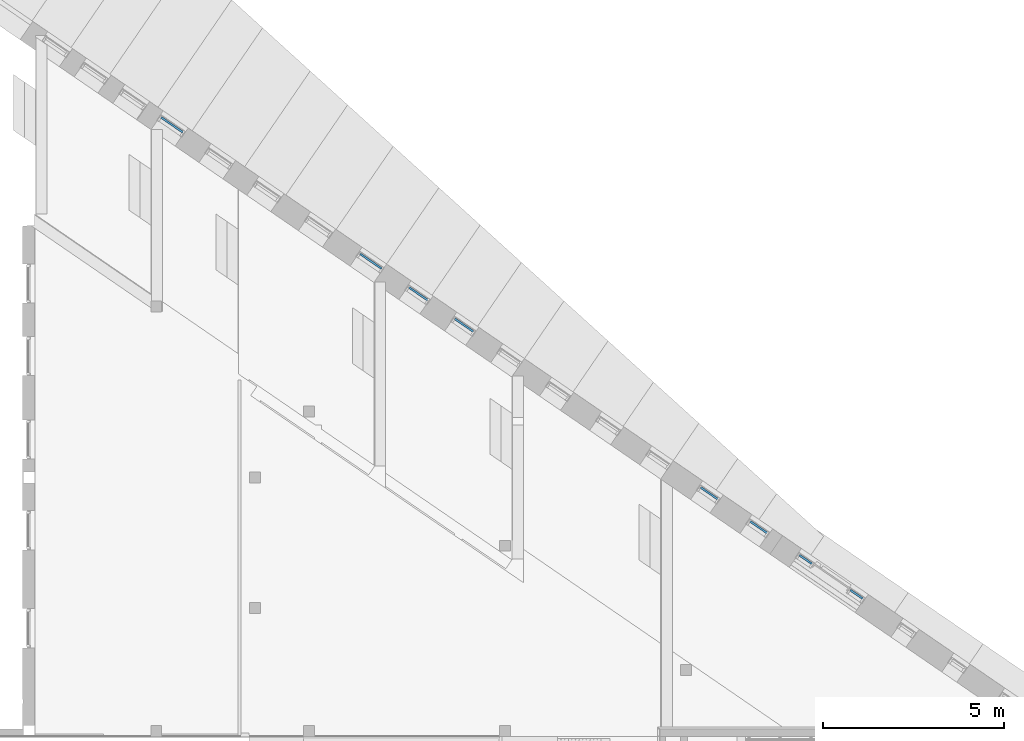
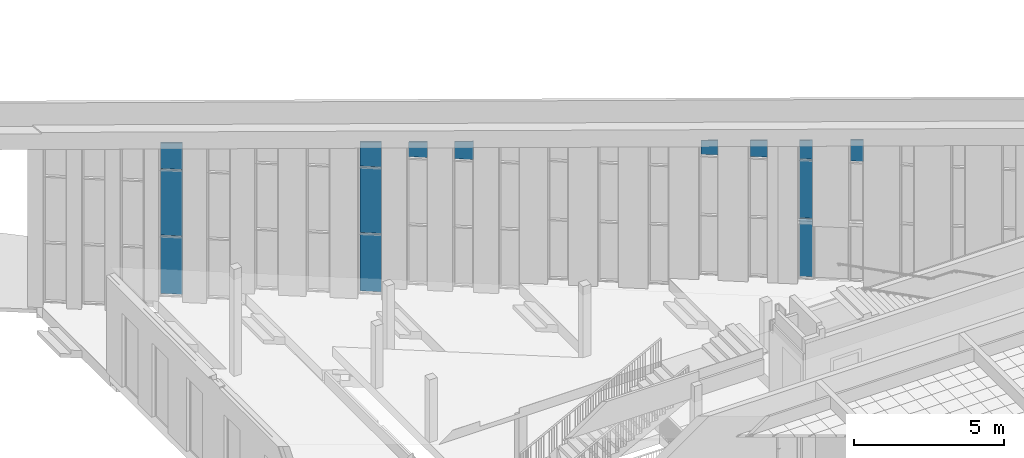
# One storey, part 36 of 79: 14 plates, 8 elements without a shape of their own.
"""IFC2X3 building model written with IfcOpenShell, lengths in millimetres."""

from ifc_helpers import new_model, entity, si_unit, converted_unit, derived_unit, money_unit, direction, frame, origin_with_axes, place, context, subcontext, project, spatial, faceted_brep, material, type_object, element, aggregate, save


model = new_model("IFC2X3")

# Units and contexts
model_context = context("Model", 3, precision=0.01, world=origin_with_axes(), true_north=direction((0.0, 1.0)))
body_context = subcontext(model_context, "Body", "Model", "MODEL_VIEW")
ifc_project = project(units=[si_unit("LENGTHUNIT", "METRE", prefix="MILLI"), si_unit("AREAUNIT", "SQUARE_METRE"), si_unit("VOLUMEUNIT", "CUBIC_METRE"), converted_unit("PLANEANGLEUNIT", "DEGREE", entity("IfcPlaneAngleMeasure", 0.0174532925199), si_unit("PLANEANGLEUNIT", "RADIAN"), dimensions=[0, 0, 0, 0, 0, 0, 0]), si_unit("SOLIDANGLEUNIT", "STERADIAN"), money_unit("EUR"), converted_unit("TIMEUNIT", "Year", entity("IfcTimeMeasure", 31556926.0), si_unit("TIMEUNIT", "SECOND"), dimensions=[0, 0, 1, 0, 0, 0, 0]), si_unit("MASSUNIT", "GRAM", prefix="KILO"), si_unit("THERMODYNAMICTEMPERATUREUNIT", "DEGREE_CELSIUS"), si_unit("LUMINOUSINTENSITYUNIT", "LUMEN"), si_unit("ENERGYUNIT", "JOULE", prefix="MEGA"), derived_unit("THERMALCONDUCTANCEUNIT", [(si_unit("POWERUNIT", "WATT"), 1), (si_unit("LENGTHUNIT", "METRE"), -1), (si_unit("THERMODYNAMICTEMPERATUREUNIT", "KELVIN"), -1)]), derived_unit("SPECIFICHEATCAPACITYUNIT", [(si_unit("ENERGYUNIT", "JOULE"), 1), (si_unit("MASSUNIT", "GRAM", prefix="KILO"), -1), (si_unit("THERMODYNAMICTEMPERATUREUNIT", "KELVIN"), -1)]), derived_unit("MASSDENSITYUNIT", [(si_unit("MASSUNIT", "GRAM", prefix="KILO"), 1), (si_unit("VOLUMEUNIT", "CUBIC_METRE"), -1)])], contexts=[model_context])

# Site, building, storey
site_placement = place(None, origin_with_axes())
site = spatial("IfcSite", under=ifc_project, at=site_placement, Name="L.Koidula tn 11b", CompositionType="ELEMENT")
building_placement = place(site_placement, origin_with_axes())
building = spatial("IfcBuilding", under=site, at=building_placement, Name="Rakvere Riigigümnaasium", CompositionType="ELEMENT")
storey_placement = place(building_placement, frame((0.0, 0.0, 3720.0), z_axis=(0.0, 0.0, 1.0), x_axis=(1.0, 0.0, 0.0)))
storey = spatial("IfcBuildingStorey", under=building, at=storey_placement, Name="2.korrus +3,72", CompositionType="ELEMENT", Elevation=3720.0)

# Curtain wall, plate
curtain_wall_type = type_object("IfcCurtainWallType", Name="Curtain Wall Type", PredefinedType="NOTDEFINED")
curtain_wall_1_placement = place(storey_placement, frame((61972.2494244, 33972.9766299, -1395.00007094), z_axis=(0.0, 0.0, 1.0), x_axis=(1.0, 0.0, 0.0)))
curtain_wall_1 = element("IfcCurtainWall", 1, at=curtain_wall_1_placement, inside=storey, type_object=curtain_wall_type, Name="KLF-06-18")
ifc_material = material(Name="Klaaspakett 3x")
plate_type_1 = type_object("IfcPlateType", Name="Distinct Panel 726 x 2676 x 54", PredefinedType="CURTAIN_PANEL")
plate_1_placement = place(curtain_wall_1_placement, frame((0.0259363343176, -0.0177891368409, 3750.00015279), z_axis=(0.0, 0.0, 1.0), x_axis=(-0.824666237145, 0.565619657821, 0.0)))
plate_1 = element("IfcPlate", 2, at=plate_1_placement, type_object=plate_type_1, material=ifc_material, Name="KLF-06-18-Klaasid", ObjectType="CURTAIN_PANEL", context=body_context, shape_type="Brep", body=[
    faceted_brep([(-362.960890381, 27.0, 1338.00001341), (-362.960890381, -27.0, 1338.00001341), (363.008103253, -27.0, 1338.00001341), (363.008103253, 27.0, 1338.00001341), (-362.960769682, 27.0, -1338.00001341), (-362.960769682, -27.0, -1338.00001341), (362.913555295, -27.0, -1338.00001341), (362.913555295, 27.0, -1338.00001341)], [[[0, 1, 2, 3]], [[4, 5, 1, 0]], [[1, 5, 6, 2]], [[3, 2, 6, 7]], [[0, 3, 7, 4]], [[7, 6, 5, 4]]]),
])

curtain_wall_2_placement = place(storey_placement, frame((67456.273164, 30211.6096842, -929.999974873), z_axis=(0.0, 0.0, 1.0), x_axis=(1.0, 0.0, 0.0)))
curtain_wall_2 = element("IfcCurtainWall", 3, at=curtain_wall_2_placement, inside=storey, type_object=curtain_wall_type, Name="KLF-06-14")
plate_2_placement = place(curtain_wall_2_placement, frame((-2.77543534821e-05, 1.90360758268e-05, 3750.00006484), z_axis=(0.0, 0.0, 1.0), x_axis=(-0.824666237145, 0.565619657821, 0.0)))
plate_2 = element("IfcPlate", 4, at=plate_2_placement, type_object=plate_type_1, material=ifc_material, Name="KLF-06-14-Klaasid", ObjectType="CURTAIN_PANEL", context=body_context, shape_type="Brep", body=[
    faceted_brep([(-362.999999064, 27.0, 1338.00001341), (-362.999999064, -27.0, 1338.00001341), (362.999933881, -27.0, 1338.00001341), (362.999933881, 27.0, 1338.00001341), (-362.999878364, 27.0, -1338.00001341), (-362.999878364, -27.0, -1338.00001341), (362.999933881, -27.0, -1338.00001341), (362.999933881, 27.0, -1338.00001341)], [[[0, 1, 2, 3]], [[4, 5, 1, 0]], [[1, 5, 6, 2]], [[3, 2, 6, 7]], [[0, 3, 7, 4]], [[7, 6, 5, 4]]]),
])

# Plate
plate_type_2 = type_object("IfcPlateType", Name="Distinct Panel 726 x 2351 x 54", PredefinedType="CURTAIN_PANEL")
plate_3_placement = place(curtain_wall_1_placement, frame((0.0620440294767, -0.0425545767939, 1200.0000764), z_axis=(0.0, 0.0, 1.0), x_axis=(-0.824666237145, 0.565619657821, 0.0)))
plate_3 = element("IfcPlate", 5, at=plate_3_placement, type_object=plate_type_2, material=ifc_material, Name="KLF-06-18-Klaasid", ObjectType="CURTAIN_PANEL", context=body_context, shape_type="Brep", body=[
    faceted_brep([(-362.916958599, 27.0, 1188.00007563), (-362.916958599, -27.0, 1188.00007563), (362.956487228, -27.0, 1188.00007563), (362.956487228, 27.0, 1188.00007563), (-362.916958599, 27.0, -1163.00007404), (-362.916958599, -27.0, -1163.00007404), (362.878273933, -27.0, -1163.00007404), (362.878273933, 27.0, -1163.00007404)], [[[0, 1, 2, 3]], [[4, 5, 1, 0]], [[1, 5, 6, 2]], [[3, 2, 6, 7]], [[0, 3, 7, 4]], [[7, 6, 5, 4]]]),
])

plate_4_placement = place(curtain_wall_2_placement, frame((-5.3164328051e-05, 3.64641969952e-05, 1200.00003242), z_axis=(0.0, 0.0, 1.0), x_axis=(-0.824666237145, 0.565619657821, 0.0)))
plate_4 = element("IfcPlate", 6, at=plate_4_placement, type_object=plate_type_2, material=ifc_material, Name="KLF-06-14-Klaasid", ObjectType="CURTAIN_PANEL", context=body_context, shape_type="Brep", body=[
    faceted_brep([(-362.999907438, 27.0, 1188.00003209), (-362.999907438, -27.0, 1188.00003209), (362.999897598, -27.0, 1188.00003209), (362.999897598, 27.0, 1188.00003209), (-362.999907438, 27.0, -1163.00003142), (-362.999907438, -27.0, -1163.00003142), (362.999897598, -27.0, -1163.00003142), (362.999897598, 27.0, -1163.00003142)], [[[0, 1, 2, 3]], [[4, 5, 1, 0]], [[1, 5, 6, 2]], [[3, 2, 6, 7]], [[0, 3, 7, 4]], [[7, 6, 5, 4]]]),
])

plate_type_3 = type_object("IfcPlateType", Name="Distinct Panel 726 x 1082 x 54", PredefinedType="CURTAIN_PANEL")
plate_5_placement = place(curtain_wall_1_placement, frame((0.0, 0.0, 5655.51628665), z_axis=(0.0, 0.0, 1.0), x_axis=(-0.824666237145, 0.565619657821, 0.0)))
plate_5 = element("IfcPlate", 7, at=plate_5_placement, type_object=plate_type_3, material=ifc_material, Name="KLF-06-18-Klaasid", ObjectType="CURTAIN_PANEL", context=body_context, shape_type="Brep", body=[
    faceted_brep([(-362.992350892, 27.0, 538.959468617), (-362.992350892, -27.0, 538.959468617), (363.006614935, -27.0, 497.954947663), (363.006614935, 27.0, 497.954947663), (-362.992334, 27.0, -543.516140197), (-362.992334, -27.0, -543.516140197), (362.977424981, -27.0, -543.516140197), (362.977424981, 27.0, -543.516140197)], [[[0, 1, 2, 3]], [[4, 5, 1, 0]], [[1, 5, 6, 2]], [[3, 2, 6, 7]], [[0, 3, 7, 4]], [[7, 6, 5, 4]]]),
])

aggregate(curtain_wall_1, [plate_5, plate_1, plate_3])

plate_type_4 = type_object("IfcPlateType", Name="Distinct Panel 726 x 972 x 54", PredefinedType="CURTAIN_PANEL")
plate_6_placement = place(curtain_wall_2_placement, frame((0.0, 0.0, 5621.233877), z_axis=(0.0, 0.0, 1.0), x_axis=(-0.824666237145, 0.565619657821, 0.0)))
plate_6 = element("IfcPlate", 8, at=plate_6_placement, type_object=plate_type_4, material=ifc_material, Name="KLF-06-14-Klaasid", ObjectType="CURTAIN_PANEL", context=body_context, shape_type="Brep", body=[
    faceted_brep([(-362.999975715, 27.0, 505.743993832), (-362.999975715, -27.0, 505.743993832), (362.99997069, -27.0, 462.593045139), (362.99997069, 27.0, 462.593045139), (-362.999959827, 27.0, -509.233804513), (-362.999959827, -27.0, -509.233804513), (362.99997069, -27.0, -509.233804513), (362.99997069, 27.0, -509.233804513)], [[[0, 1, 2, 3]], [[4, 5, 1, 0]], [[1, 5, 6, 2]], [[3, 2, 6, 7]], [[0, 3, 7, 4]], [[7, 6, 5, 4]]]),
])

aggregate(curtain_wall_2, [plate_6, plate_2, plate_4])

# Curtain wall, plate
curtain_wall_3_placement = place(storey_placement, frame((68763.037451, 29315.3232528, -465.000107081), z_axis=(0.0, 0.0, 1.0), x_axis=(1.0, 0.0, 0.0)))
curtain_wall_3 = element("IfcCurtainWall", 9, at=curtain_wall_3_placement, inside=storey, type_object=curtain_wall_type, Name="KLF-06-13")
plate_type_5 = type_object("IfcPlateType", Name="Distinct Panel 626 x 604 x 54", PredefinedType="CURTAIN_PANEL")
plate_7_placement = place(curtain_wall_3_placement, frame((0.0, 0.0, 5435.82557334), z_axis=(0.0, 0.0, 1.0), x_axis=(-0.824666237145, 0.565619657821, 0.0)))
plate_7 = element("IfcPlate", 10, at=plate_7_placement, type_object=plate_type_5, material=ifc_material, Name="KLF-06-13-Klaasid", ObjectType="CURTAIN_PANEL", context=body_context, shape_type="Brep", body=[
    faceted_brep([(-313.000019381, 27.0, 317.363726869), (-313.000019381, -27.0, 317.363726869), (312.99999929, -27.0, 280.156478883), (312.99999929, 27.0, 280.156478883), (-313.00000895, 27.0, -323.825406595), (-313.00000895, -27.0, -323.825406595), (313.000030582, -27.0, -323.825406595), (313.000030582, 27.0, -323.825406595)], [[[0, 1, 2, 3]], [[4, 5, 1, 0]], [[1, 5, 6, 2]], [[3, 2, 6, 7]], [[0, 3, 7, 4]], [[7, 6, 5, 4]]]),
])
aggregate(curtain_wall_3, [plate_7])

curtain_wall_4_placement = place(storey_placement, frame((70025.1098687, 28449.7063598, -465.0), z_axis=(0.0, 0.0, 1.0), x_axis=(1.0, 0.0, 0.0)))
curtain_wall_4 = element("IfcCurtainWall", 11, at=curtain_wall_4_placement, inside=storey, type_object=curtain_wall_type, Name="KLF-06-12")
plate_type_6 = type_object("IfcPlateType", Name="Distinct Panel 626 x 695 x 54", PredefinedType="CURTAIN_PANEL")
plate_8_placement = place(curtain_wall_4_placement, frame((0.0, 0.0, 5481.3062131), z_axis=(0.0, 0.0, 1.0), x_axis=(-0.824666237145, 0.565619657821, 0.0)))
plate_8 = element("IfcPlate", 12, at=plate_8_placement, type_object=plate_type_6, material=ifc_material, Name="KLF-06-12-Klaasid", ObjectType="CURTAIN_PANEL", context=body_context, shape_type="Brep", body=[
    faceted_brep([(-312.999941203, 27.0, 362.844417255), (-312.999941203, -27.0, 362.844417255), (312.999955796, -27.0, 325.637282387), (312.999955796, 27.0, 325.637282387), (-312.999929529, 27.0, -369.306142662), (-312.999929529, -27.0, -369.306142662), (312.999920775, -27.0, -369.306142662), (312.999920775, 27.0, -369.306142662)], [[[0, 1, 2, 3]], [[4, 5, 1, 0]], [[1, 5, 6, 2]], [[3, 2, 6, 7]], [[0, 3, 7, 4]], [[7, 6, 5, 4]]]),
])
aggregate(curtain_wall_4, [plate_8])

curtain_wall_5_placement = place(storey_placement, frame((76782.8909829, 23814.6943938, 465.0), z_axis=(0.0, 0.0, 1.0), x_axis=(1.0, 0.0, 0.0)))
curtain_wall_5 = element("IfcCurtainWall", 13, at=curtain_wall_5_placement, inside=storey, type_object=curtain_wall_type, Name="KLF-06-07")
plate_type_7 = type_object("IfcPlateType", Name="Distinct Panel 576 x 553 x 54", PredefinedType="CURTAIN_PANEL")
plate_9_placement = place(curtain_wall_5_placement, frame((0.000170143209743, -0.000116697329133, 5109.83445204), z_axis=(0.0, 0.0, 1.0), x_axis=(-0.824666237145, 0.565619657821, 0.0)))
plate_9 = element("IfcPlate", 14, at=plate_9_placement, type_object=plate_type_7, material=ifc_material, Name="KLF-06-07-Klaasid", ObjectType="CURTAIN_PANEL", context=body_context, shape_type="Brep", body=[
    faceted_brep([(-288.000091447, 27.0, 289.886831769), (-288.000091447, -27.0, 289.886831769), (287.999892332, -27.0, 255.651354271), (287.999892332, 27.0, 255.651354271), (-288.000091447, 27.0, -297.834386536), (-288.000091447, -27.0, -297.834386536), (288.000308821, -27.0, -297.834386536), (288.000308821, 27.0, -297.834386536)], [[[0, 1, 2, 3]], [[4, 5, 1, 0]], [[1, 5, 6, 2]], [[3, 2, 6, 7]], [[0, 3, 7, 4]], [[7, 6, 5, 4]]]),
])
aggregate(curtain_wall_5, [plate_9])

curtain_wall_6_placement = place(storey_placement, frame((78143.5902424, 22881.4219802, 465.0), z_axis=(0.0, 0.0, 1.0), x_axis=(1.0, 0.0, 0.0)))
curtain_wall_6 = element("IfcCurtainWall", 15, at=curtain_wall_6_placement, inside=storey, type_object=curtain_wall_type, Name="KLF-06-06")
plate_type_8 = type_object("IfcPlateType", Name="Distinct Panel 576 x 652 x 54", PredefinedType="CURTAIN_PANEL")
plate_10_placement = place(curtain_wall_6_placement, frame((0.000137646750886, -9.44087545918e-05, 5158.8695844), z_axis=(0.0, 0.0, 1.0), x_axis=(-0.824666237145, 0.565619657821, 0.0)))
plate_10 = element("IfcPlate", 16, at=plate_10_placement, type_object=plate_type_8, material=ifc_material, Name="KLF-06-06-Klaasid", ObjectType="CURTAIN_PANEL", context=body_context, shape_type="Brep", body=[
    faceted_brep([(-288.000061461, 27.0, 338.921915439), (-288.000061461, -27.0, 338.921915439), (287.999910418, -27.0, 304.686535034), (287.999910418, 27.0, 304.686535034), (-288.000061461, 27.0, -346.869516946), (-288.000061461, -27.0, -346.869516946), (288.000228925, -27.0, -346.869516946), (288.000228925, 27.0, -346.869516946)], [[[0, 1, 2, 3]], [[4, 5, 1, 0]], [[1, 5, 6, 2]], [[3, 2, 6, 7]], [[0, 3, 7, 4]], [[7, 6, 5, 4]]]),
])
aggregate(curtain_wall_6, [plate_10])

# Curtain wall, plates
curtain_wall_7_placement = place(storey_placement, frame((79442.2672738, 21990.3699919, 464.999974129), z_axis=(0.0, 0.0, 1.0), x_axis=(1.0, 0.0, 0.0)))
curtain_wall_7 = element("IfcCurtainWall", 17, at=curtain_wall_7_placement, inside=storey, type_object=curtain_wall_type, Name="KLF-06-05")
plate_type_9 = type_object("IfcPlateType", Name="Distinct Panel 426 x 750 x 54", PredefinedType="CURTAIN_PANEL")
plate_11_placement = place(curtain_wall_7_placement, frame((0.0, 0.0, 5205.67498764), z_axis=(0.0, 0.0, 1.0), x_axis=(-0.824666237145, 0.565619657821, 0.0)))
plate_11 = element("IfcPlate", 18, at=plate_11_placement, type_object=plate_type_9, material=ifc_material, Name="KLF-06-05-Klaasid", ObjectType="CURTAIN_PANEL", context=body_context, shape_type="Brep", body=[
    faceted_brep([(-212.999889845, 27.0, 381.26956562), (-212.999889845, -27.0, 381.26956562), (213.000026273, -27.0, 355.949645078), (213.000026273, 27.0, 355.949645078), (-212.999988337, 27.0, -393.674893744), (-212.999988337, -27.0, -393.674893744), (212.99982929, -27.0, -393.674893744), (212.99982929, 27.0, -393.674893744)], [[[0, 1, 2, 3]], [[4, 5, 1, 0]], [[1, 5, 6, 2]], [[3, 2, 6, 7]], [[0, 3, 7, 4]], [[7, 6, 5, 4]]]),
])
plate_type_10 = type_object("IfcPlateType", Name="Distinct Panel 426 x 2376 x 54", PredefinedType="CURTAIN_PANEL")
plate_12_placement = place(curtain_wall_7_placement, frame((3.53266642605e-05, -2.42297524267e-05, 3600.00009071), z_axis=(0.0, 0.0, 1.0), x_axis=(-0.824666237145, 0.565619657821, 0.0)))
plate_12 = element("IfcPlate", 19, at=plate_12_placement, type_object=plate_type_10, material=ifc_material, Name="KLF-06-05-Klaasid", ObjectType="CURTAIN_PANEL", context=body_context, shape_type="Brep", body=[
    faceted_brep([(-212.999943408, 27.0, 1188.0), (-212.999943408, -27.0, 1188.0), (212.999877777, -27.0, 1188.0), (212.999877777, 27.0, 1188.0), (-212.999800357, 27.0, -1188.0), (-212.999800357, -27.0, -1188.0), (212.999877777, -27.0, -1188.0), (212.999877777, 27.0, -1188.0)], [[[0, 1, 2, 3]], [[4, 5, 1, 0]], [[1, 5, 6, 2]], [[3, 2, 6, 7]], [[0, 3, 7, 4]], [[7, 6, 5, 4]]]),
])
plate_type_11 = type_object("IfcPlateType", Name="Distinct Panel 426 x 2351 x 54", PredefinedType="CURTAIN_PANEL")
plate_13_placement = place(curtain_wall_7_placement, frame((-2.87330976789e-05, 1.97073681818e-05, 1200.00004535), z_axis=(0.0, 0.0, 1.0), x_axis=(-0.824666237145, 0.565619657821, 0.0)))
plate_13 = element("IfcPlate", 20, at=plate_13_placement, type_object=plate_type_11, material=ifc_material, Name="KLF-06-05-Klaasid", ObjectType="CURTAIN_PANEL", context=body_context, shape_type="Brep", body=[
    faceted_brep([(-212.99988393, 27.0, 1188.0000449), (-212.99988393, -27.0, 1188.0000449), (212.999810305, -27.0, 1188.0000449), (212.999810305, 27.0, 1188.0000449), (-212.999812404, 27.0, -1163.00004396), (-212.999812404, -27.0, -1163.00004396), (212.999881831, -27.0, -1163.00004396), (212.999881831, 27.0, -1163.00004396)], [[[0, 1, 2, 3]], [[4, 5, 1, 0]], [[1, 5, 6, 2]], [[3, 2, 6, 7]], [[0, 3, 7, 4]], [[7, 6, 5, 4]]]),
])
aggregate(curtain_wall_7, [plate_11, plate_12, plate_13])

# Curtain wall, plate
curtain_wall_8_placement = place(storey_placement, frame((80844.1957644, 21028.8193943, 465.0), z_axis=(0.0, 0.0, 1.0), x_axis=(1.0, 0.0, 0.0)))
curtain_wall_8 = element("IfcCurtainWall", 21, at=curtain_wall_8_placement, inside=storey, type_object=curtain_wall_type, Name="KLF-06-04")
plate_type_12 = type_object("IfcPlateType", Name="Distinct Panel 426 x 851 x 54", PredefinedType="CURTAIN_PANEL")
plate_14_placement = place(curtain_wall_8_placement, frame((0.0, 0.0, 5256.19583666), z_axis=(0.0, 0.0, 1.0), x_axis=(-0.824666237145, 0.565619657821, 0.0)))
plate_14 = element("IfcPlate", 22, at=plate_14_placement, type_object=plate_type_12, material=ifc_material, Name="KLF-06-04-Klaasid", ObjectType="CURTAIN_PANEL", context=body_context, shape_type="Brep", body=[
    faceted_brep([(-212.999874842, 27.0, 431.790477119), (-212.999874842, -27.0, 431.790477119), (213.000022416, -27.0, 406.470470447), (213.000022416, 27.0, 406.470470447), (-212.999874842, 27.0, -444.195778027), (-212.999874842, -27.0, -444.195778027), (212.999732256, -27.0, -444.195778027), (212.999732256, 27.0, -444.195778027)], [[[0, 1, 2, 3]], [[4, 5, 1, 0]], [[1, 5, 6, 2]], [[3, 2, 6, 7]], [[0, 3, 7, 4]], [[7, 6, 5, 4]]]),
])
aggregate(curtain_wall_8, [plate_14])

save(model, "model.ifc")
